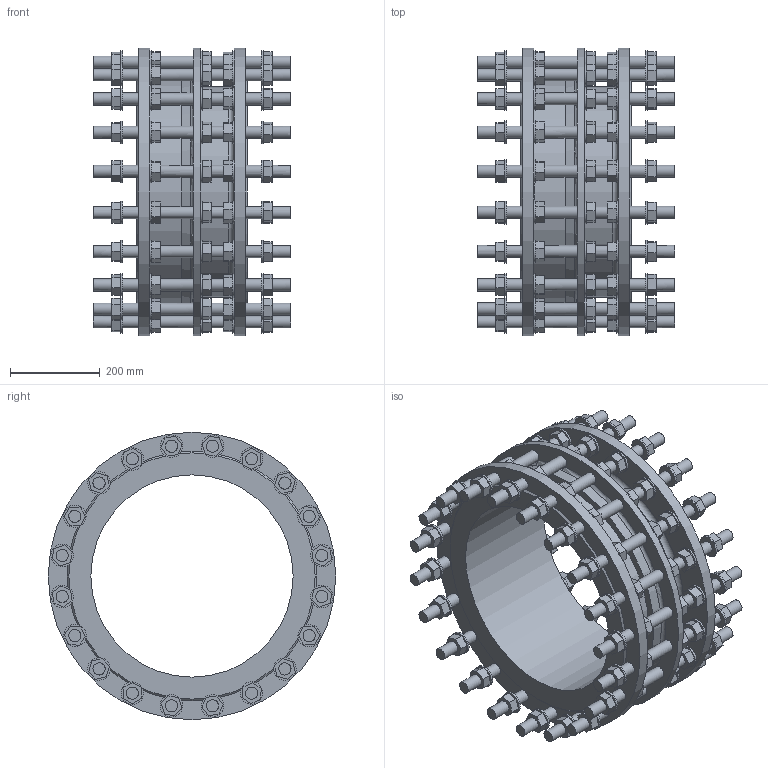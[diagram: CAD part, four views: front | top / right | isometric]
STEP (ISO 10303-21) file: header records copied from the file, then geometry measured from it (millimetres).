
FILE_DESCRIPTION (( 'STEP AP203' ), '1' );
FILE_NAME ('O_265_910_DN450_1XXXXX00_L=245_REV01.step', '2024-10-11T10:37:34', ( '' ), ( '' ), 'SwSTEP 2.0', 'SolidWorks 2022', '' );
FILE_SCHEMA (( 'CONFIG_CONTROL_DESIGN' ));
Length unit declared in the file: millimetre
Products named in the file (1): O_265_910_DN450_1XXXXX00_L=245_REV01
Bounding box: 440 x 640 x 640 mm (x, y, z)
Volume: 23503705.8 mm3; surface area: 2445415.2 mm2
Topology: 1 solids, 1 shells, 1161 faces, 2783 edges, 1895 vertices
Faces by surface type: plane 928, cylinder 228, cone 3, torus 2
Full cylindrical faces by diameter (mm): 27 x120, 50 x100, 450 x1, 468 x1, 502 x1, 640 x3
Entity records: 31652 total; most frequent: CARTESIAN_POINT 5617, DIRECTION 5197, ORIENTED_EDGE 4820, EDGE_CURVE 2410, LINE 1907, VECTOR 1907, VERTEX_POINT 1753, EDGE_LOOP 1745
